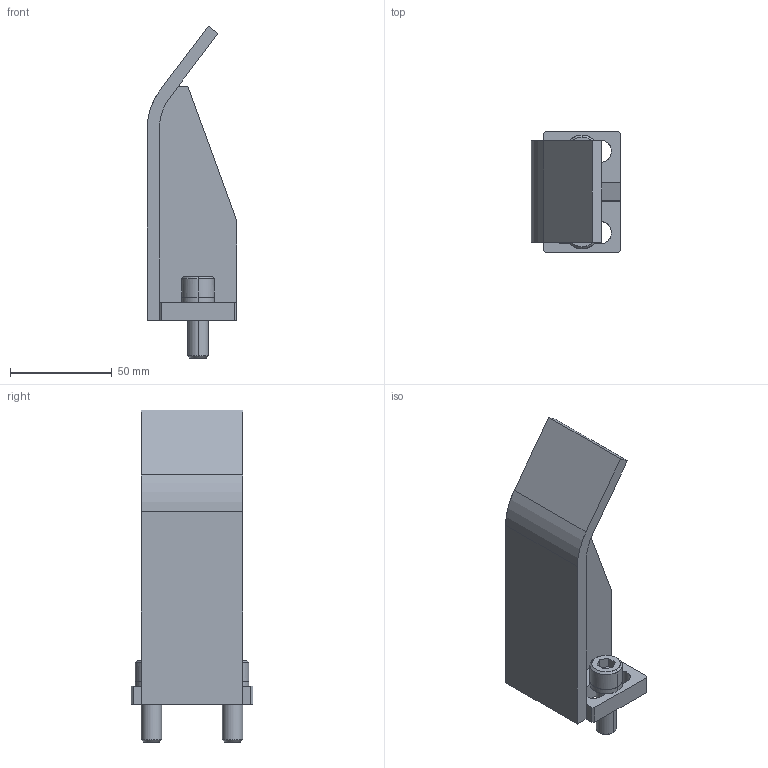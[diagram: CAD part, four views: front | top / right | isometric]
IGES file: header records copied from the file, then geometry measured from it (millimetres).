
Global section: file name: E:\UnigraphicsGraphicData\MISUMI_PRESS-PARTS\IGES\3d_nstfa-105-m10_01625_r00.igs; native system: NX V5.0; preprocessor: UGS NX IGES V5.0; author: MISUMI; date: 20110105.162128; units: millimetre
Bounding box: 44 x 60 x 163.5 mm (x, y, z)
Surface area: 33993.1 mm2 (no closed solid volume)
Topology: 0 solids, 0 shells, 83 faces, 516 edges, 516 vertices
Faces by surface type: bspline 83
